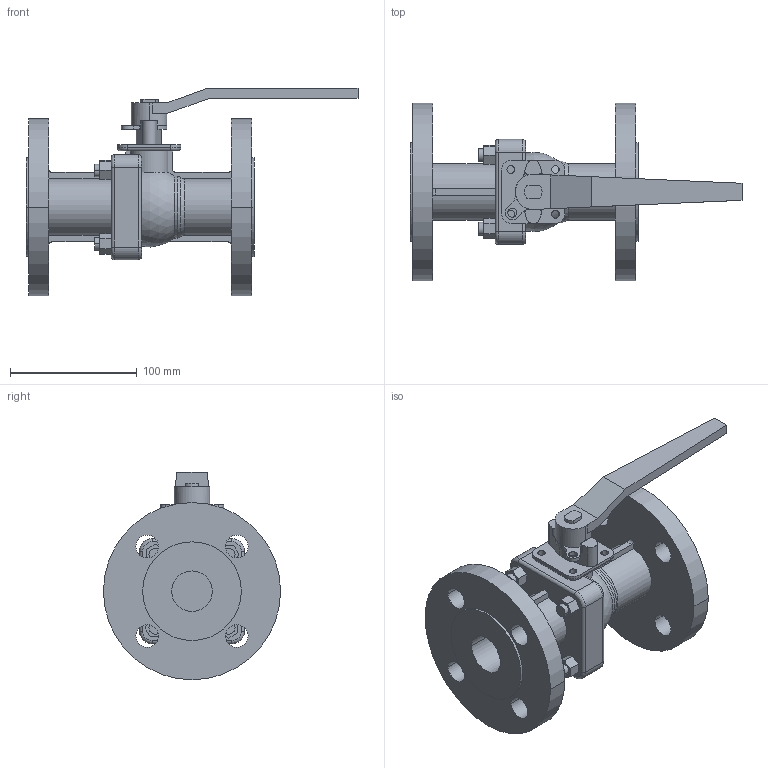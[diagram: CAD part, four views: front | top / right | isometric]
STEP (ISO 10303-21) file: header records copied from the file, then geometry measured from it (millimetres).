
FILE_DESCRIPTION( (''), '2;1');
FILE_NAME ('PC2091.16192.BLV-2SF EN PN16 32A_6894.stp','2026-05-28T09:11:58',(''),(''),'spGate 21.9.4 (****-****-****-****)','','');
FILE_SCHEMA (('AUTOMOTIVE_DESIGN'));
Length unit declared in the file: millimetre
Products named in the file (2): Assembly; BLV-2SFEN 32A
Assembly tree (1 placements, depth 2):
  Assembly
    BLV-2SFEN 32A
Bounding box: 262.3 x 140 x 164 mm (x, y, z)
Volume: 824707.5 mm3; surface area: 149348 mm2
Topology: 1 solids, 1 shells, 217 faces, 567 edges, 367 vertices
Faces by surface type: plane 100, cylinder 100, bspline 16, sphere 1
Entity records: 11733 total; most frequent: CARTESIAN_POINT 1745, DIRECTION 1152, ORIENTED_EDGE 1134, COLOUR_RGB 785, PRESENTATION_STYLE_ASSIGNMENT 785, STYLED_ITEM 785, EDGE_CURVE 567, DRAUGHTING_PRE_DEFINED_CURVE_FONT 567
